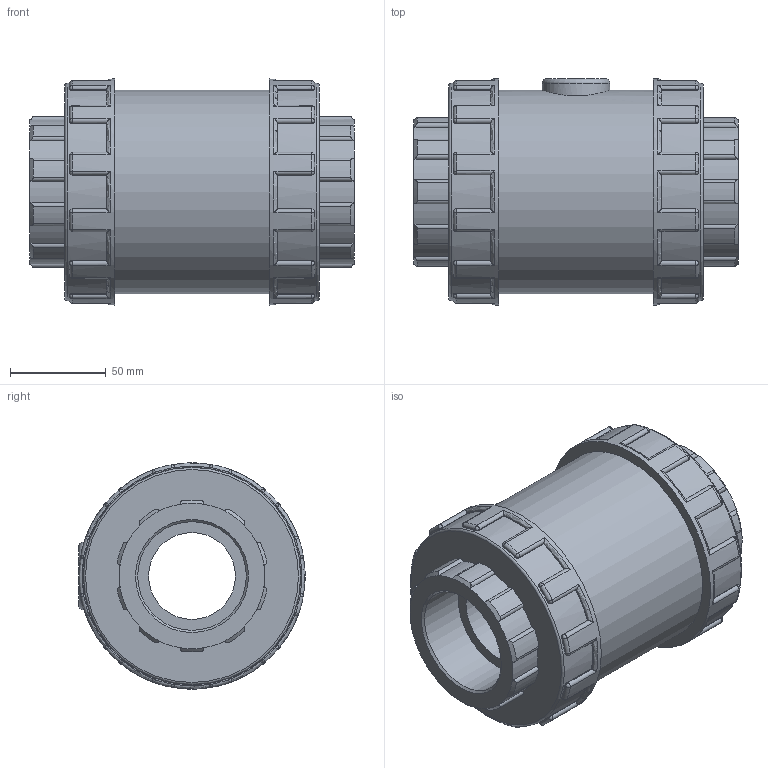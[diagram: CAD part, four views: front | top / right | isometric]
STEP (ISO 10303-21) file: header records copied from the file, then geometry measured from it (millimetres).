
FILE_DESCRIPTION(/* description */ ('PLASSON FOOT VALVE THR PVC 2"'),/* implementation_level */ '2;1');
FILE_NAME(/* name */ 'C:\Dropbox\KIMPROJECTS-Inventor\99-16-3568-Processing\PVC Catalog 2017\116410 - 116010\116410020.ipt.stp',/* time_stamp */ '2017-12-07T16:14:34+02:00',/* author */ ('KIM'),/* organization */ (''),/* preprocessor_version */ 'ST-DEVELOPER v15.6',/* originating_system */ 'Autodesk Inventor 2015',/* authorisation */ '');
FILE_SCHEMA (('AUTOMOTIVE_DESIGN { 1 0 10303 214 3 1 1 }'));
Length unit declared in the file: millimetre
Products named in the file (1): 116410020
Bounding box: 169 x 118 x 118 mm (x, y, z)
Volume: 1115547.5 mm3; surface area: 104861.5 mm2
Topology: 1 solids, 1 shells, 411 faces, 1021 edges, 618 vertices
Faces by surface type: cylinder 185, plane 105, torus 51, sphere 48, cone 22
Full cylindrical faces by diameter (mm): 35.4 x1, 45.325 x1, 56.656 x2, 106.2 x1, 113.28 x2, 118 x2
Entity records: 13410 total; most frequent: CARTESIAN_POINT 3631, DIRECTION 2180, ORIENTED_EDGE 1998, EDGE_CURVE 999, AXIS2_PLACEMENT_3D 906, VERTEX_POINT 611, CIRCLE 494, EDGE_LOOP 434
